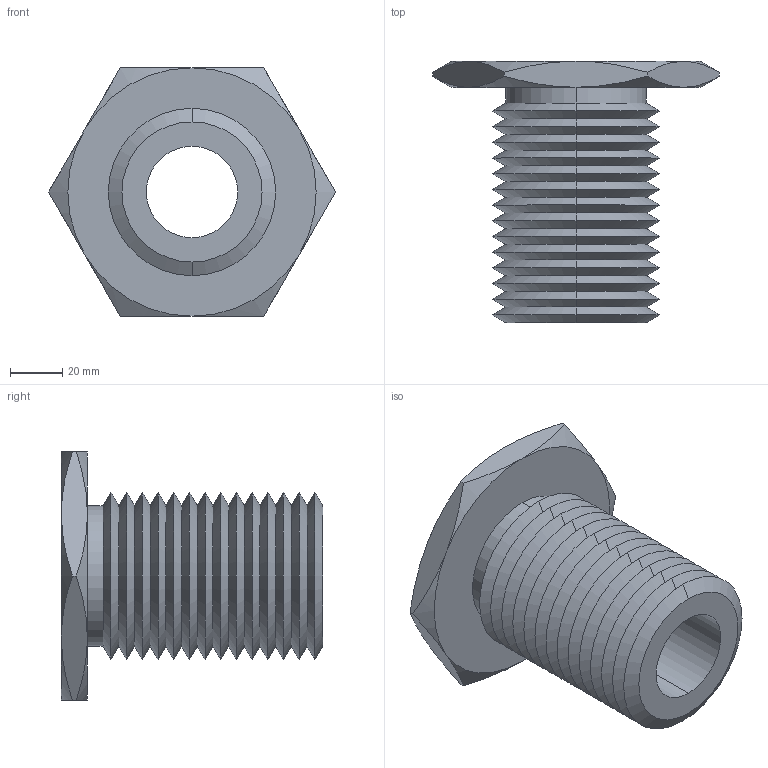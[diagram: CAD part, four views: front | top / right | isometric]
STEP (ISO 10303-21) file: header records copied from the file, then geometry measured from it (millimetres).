
FILE_DESCRIPTION (( 'STEP AP203' ), '1' );
FILE_NAME ('63302.W0064_1,37 UNC-6.step', '2013-12-08T11:28:27', ( 'User' ), ( '' ), 'SwSTEP 2.0', 'SolidWorks 2009', '' );
FILE_SCHEMA (( 'CONFIG_CONTROL_DESIGN' ));
Length unit declared in the file: millimetre
Products named in the file (1): 63302.W0064_1,37 UNC-6
Bounding box: 109.7 x 100 x 95 mm (x, y, z)
Volume: 221563 mm3; surface area: 59048.6 mm2
Topology: 1 solids, 1 shells, 83 faces, 170 edges, 90 vertices
Faces by surface type: cone 70, plane 9, cylinder 4
Entity records: 2371 total; most frequent: CARTESIAN_POINT 560, DIRECTION 392, ORIENTED_EDGE 340, EDGE_CURVE 170, AXIS2_PLACEMENT_3D 162, VERTEX_POINT 90, EDGE_LOOP 86, ADVANCED_FACE 83
